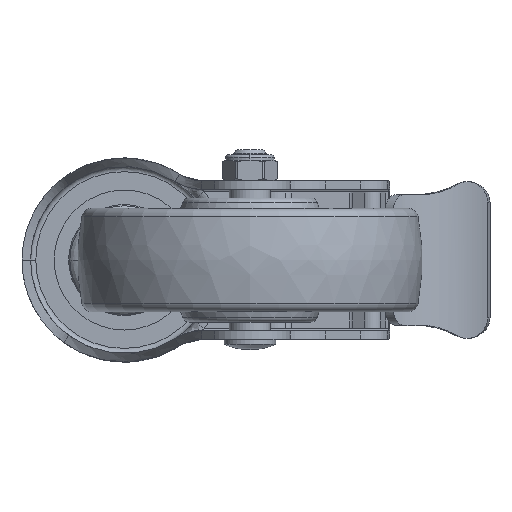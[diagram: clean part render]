
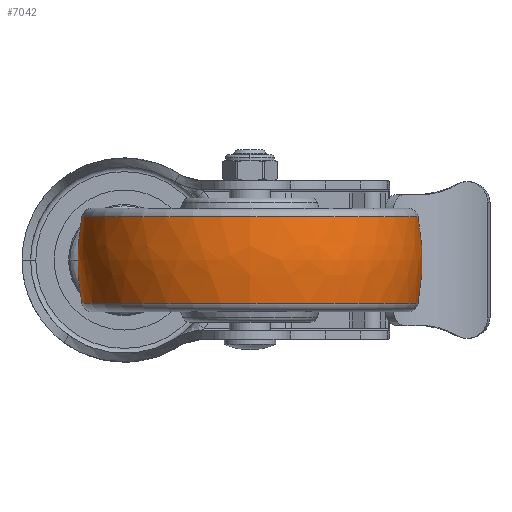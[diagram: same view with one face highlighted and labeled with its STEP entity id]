
A CAD part, front view. The second image highlights one B-rep face of the part: STEP entity #7042.
In plain terms, the highlighted free-form (B-spline) face has degree [3, 3] with [7, 4] control points.
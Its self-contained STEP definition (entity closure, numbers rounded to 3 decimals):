
#6512=CARTESIAN_POINT('',(0.,-15.,0.));
#6513=DIRECTION('',(0.,0.,1.));
#6514=DIRECTION('',(0.194,0.981,0.));
#6515=AXIS2_PLACEMENT_3D('',#6512,#6513,#6514);
#6517=CARTESIAN_POINT('',(0.,15.,0.));
#6518=DIRECTION('',(0.,0.,-1.));
#6519=DIRECTION('',(0.194,-0.981,0.));
#6520=AXIS2_PLACEMENT_3D('',#6517,#6518,#6519);
#6522=CARTESIAN_POINT('',(12.581,0.,0.));
#6523=DIRECTION('',(-1.,0.,0.));
#6524=DIRECTION('',(0.,1.,0.));
#6525=AXIS2_PLACEMENT_3D('',#6522,#6523,#6524);
#6537=CARTESIAN_POINT('',(-12.581,0.,0.));
#6538=DIRECTION('',(-1.,0.,0.));
#6539=DIRECTION('',(0.,1.,0.));
#6540=AXIS2_PLACEMENT_3D('',#6537,#6538,#6539);
#6877=CARTESIAN_POINT('',(12.581,48.771,0.));
#6878=CARTESIAN_POINT('',(-12.581,48.771,0.));
#6879=VERTEX_POINT('',#6877);
#6880=VERTEX_POINT('',#6878);
#6921=CARTESIAN_POINT('',(12.581,-48.771,0.));
#6922=CARTESIAN_POINT('',(-12.581,-48.771,0.));
#6923=VERTEX_POINT('',#6921);
#6924=VERTEX_POINT('',#6922);
#7005=CARTESIAN_POINT('',(-13.077,-48.575,
3.056));
#7006=CARTESIAN_POINT('',(-4.419,-50.35,
3.168));
#7007=CARTESIAN_POINT('',(4.419,-50.35,3.168));
#7008=CARTESIAN_POINT('',(13.077,-48.575,3.056));
#7009=CARTESIAN_POINT('',(-13.077,-50.456,
-26.837));
#7010=CARTESIAN_POINT('',(-4.419,-52.299,
-27.817));
#7011=CARTESIAN_POINT('',(4.419,-52.299,
-27.817));
#7012=CARTESIAN_POINT('',(13.077,-50.456,
-26.837));
#7013=CARTESIAN_POINT('',(-13.077,-29.952,
-48.671));
#7014=CARTESIAN_POINT('',(-4.419,-31.046,
-50.449));
#7015=CARTESIAN_POINT('',(4.419,-31.046,
-50.449));
#7016=CARTESIAN_POINT('',(13.077,-29.952,
-48.671));
#7017=CARTESIAN_POINT('',(-13.077,0.,-48.671));
#7018=CARTESIAN_POINT('',(-4.419,0.,-50.449));
#7019=CARTESIAN_POINT('',(4.419,0.,-50.449));
#7020=CARTESIAN_POINT('',(13.077,0.,
-48.671));
#7021=CARTESIAN_POINT('',(-13.077,29.952,
-48.671));
#7022=CARTESIAN_POINT('',(-4.419,31.046,
-50.449));
#7023=CARTESIAN_POINT('',(4.419,31.046,-50.449));
#7024=CARTESIAN_POINT('',(13.077,29.952,-48.671));
#7025=CARTESIAN_POINT('',(-13.077,50.456,
-26.837));
#7026=CARTESIAN_POINT('',(-4.419,52.299,
-27.817));
#7027=CARTESIAN_POINT('',(4.419,52.299,-27.817));
#7028=CARTESIAN_POINT('',(13.077,50.456,-26.837));
#7029=CARTESIAN_POINT('',(-13.077,48.575,3.056));
#7030=CARTESIAN_POINT('',(-4.419,50.35,3.168));
#7031=CARTESIAN_POINT('',(4.419,50.35,3.168));
#7032=CARTESIAN_POINT('',(13.077,48.575,3.056));
#7033=(BOUNDED_SURFACE()B_SPLINE_SURFACE(3,3,((#7005,#7006,#7007,#7008),(#7009,
#7010,#7011,#7012),(#7013,#7014,#7015,#7016),(#7017,#7018,#7019,#7020),(#7021,
#7022,#7023,#7024),(#7025,#7026,#7027,#7028),(#7029,#7030,#7031,#7032)),
.UNSPECIFIED.,.F.,.F.,.F.)B_SPLINE_SURFACE_WITH_KNOTS((4,3,4),(4,4),(0.,1.,
2.),(0.,1.),.UNSPECIFIED.)GEOMETRIC_REPRESENTATION_ITEM()RATIONAL_B_SPLINE_SURFACE(((1.2,1.183,1.183,1.2),(
0.947,0.934,0.934,0.947),(
0.947,0.934,0.934,0.947),(
1.2,1.183,1.183,1.2),(
0.947,0.934,0.934,0.947),(
0.947,0.934,0.934,0.947),(
1.2,1.183,1.183,1.2)))REPRESENTATION_ITEM('')SURFACE());
#7034=ORIENTED_EDGE('',*,*,#6994,.T.);
#7036=ORIENTED_EDGE('',*,*,#7035,.T.);
#7037=ORIENTED_EDGE('',*,*,#6998,.F.);
#7039=ORIENTED_EDGE('',*,*,#7038,.F.);
#7040=EDGE_LOOP('',(#7034,#7036,#7037,#7039));
#7041=FACE_OUTER_BOUND('',#7040,.F.);
#6516=CIRCLE('',#6515,65.);
#6521=CIRCLE('',#6520,65.);
#6526=CIRCLE('',#6525,48.771);
#6541=CIRCLE('',#6540,48.771);
#6994=EDGE_CURVE('',#6879,#6880,#6516,.T.);
#6998=EDGE_CURVE('',#6923,#6924,#6521,.T.);
#7035=EDGE_CURVE('',#6880,#6924,#6541,.T.);
#7038=EDGE_CURVE('',#6879,#6923,#6526,.T.);
#7042=ADVANCED_FACE('',(#7041),#7033,.T.);
